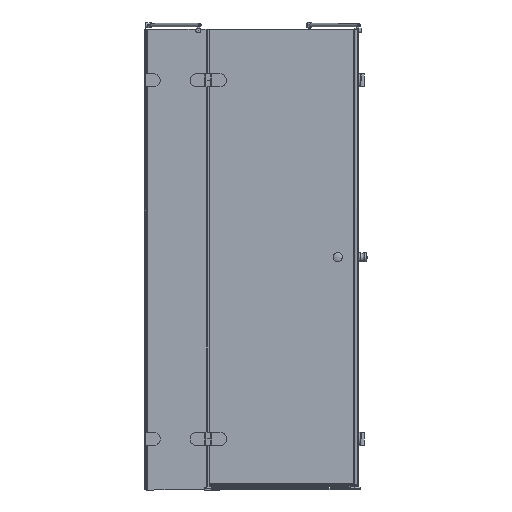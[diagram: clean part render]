
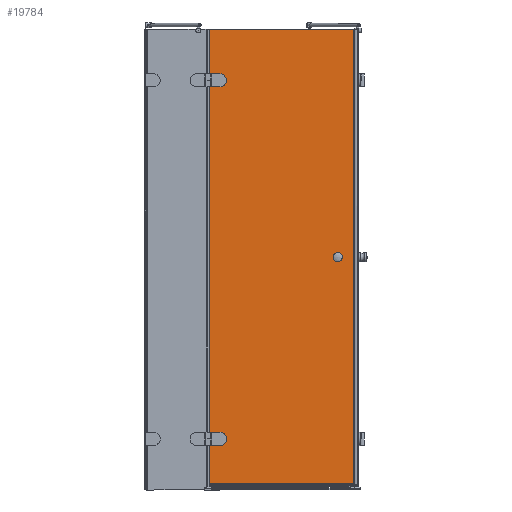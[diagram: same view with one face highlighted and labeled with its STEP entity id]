
A CAD part, front view. The second image highlights one B-rep face of the part: STEP entity #19784.
In plain terms, the highlighted planar face has unit normal (0, -1, 0).
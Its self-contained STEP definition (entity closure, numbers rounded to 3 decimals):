
#343=LINE($,#27741,#2332);
#346=LINE($,#27747,#2335);
#350=LINE($,#27757,#2339);
#393=LINE($,#27869,#2382);
#396=LINE($,#27875,#2385);
#400=LINE($,#27885,#2389);
#1843=LINE($,#32679,#3832);
#1890=LINE($,#32890,#3879);
#1897=LINE($,#32903,#3886);
#1937=LINE($,#32998,#3926);
#2332=VECTOR($,#22360,52.);
#2335=VECTOR($,#22365,23.);
#2339=VECTOR($,#22377,23.);
#2382=VECTOR($,#22484,52.);
#2385=VECTOR($,#22489,23.);
#2389=VECTOR($,#22501,23.);
#3832=VECTOR($,#26188,1875.4);
#3879=VECTOR($,#26337,1875.4);
#3886=VECTOR($,#26356,600.);
#3926=VECTOR($,#26476,600.);
#4521=FACE_BOUND($,#6724,.T.);
#4522=FACE_BOUND($,#6725,.T.);
#4523=FACE_BOUND($,#6726,.T.);
#6724=EDGE_LOOP($,(#16389,#16390,#16391,#16392));
#6725=EDGE_LOOP($,(#16393,#16394,#16395,#16396));
#6726=EDGE_LOOP($,(#16397,#16398,#16399,#16400));
#6944=CIRCLE($,#20165,26.);
#6956=CIRCLE($,#20202,26.);
#7666=VERTEX_POINT($,#27738);
#7667=VERTEX_POINT($,#27740);
#7669=VERTEX_POINT($,#27746);
#7671=VERTEX_POINT($,#27752);
#7707=VERTEX_POINT($,#27866);
#7708=VERTEX_POINT($,#27868);
#7710=VERTEX_POINT($,#27874);
#7712=VERTEX_POINT($,#27880);
#8897=VERTEX_POINT($,#32676);
#8898=VERTEX_POINT($,#32678);
#8962=VERTEX_POINT($,#32875);
#8963=VERTEX_POINT($,#32888);
#9429=EDGE_CURVE($,#7667,#7666,#343,.T.);
#9432=EDGE_CURVE($,#7669,#7667,#346,.T.);
#9435=EDGE_CURVE($,#7671,#7669,#6944,.T.);
#9438=EDGE_CURVE($,#7666,#7671,#350,.T.);
#9491=EDGE_CURVE($,#7708,#7707,#393,.T.);
#9494=EDGE_CURVE($,#7710,#7708,#396,.T.);
#9497=EDGE_CURVE($,#7712,#7710,#6956,.T.);
#9500=EDGE_CURVE($,#7707,#7712,#400,.T.);
#11393=EDGE_CURVE($,#8897,#8898,#1843,.T.);
#11475=EDGE_CURVE($,#8962,#8963,#1890,.T.);
#11482=EDGE_CURVE($,#8897,#8962,#1897,.T.);
#11530=EDGE_CURVE($,#8898,#8963,#1937,.T.);
#16389=ORIENTED_EDGE($,*,*,#9429,.T.);
#16390=ORIENTED_EDGE($,*,*,#9438,.T.);
#16391=ORIENTED_EDGE($,*,*,#9435,.T.);
#16392=ORIENTED_EDGE($,*,*,#9432,.T.);
#16393=ORIENTED_EDGE($,*,*,#9491,.T.);
#16394=ORIENTED_EDGE($,*,*,#9500,.T.);
#16395=ORIENTED_EDGE($,*,*,#9497,.T.);
#16396=ORIENTED_EDGE($,*,*,#9494,.T.);
#16397=ORIENTED_EDGE($,*,*,#11482,.T.);
#16398=ORIENTED_EDGE($,*,*,#11475,.T.);
#16399=ORIENTED_EDGE($,*,*,#11530,.F.);
#16400=ORIENTED_EDGE($,*,*,#11393,.F.);
#17696=PLANE($,#21422);
#19784=ADVANCED_FACE($,(#4521,#4522,#4523),#17696,.T.);
#20165=AXIS2_PLACEMENT_3D($,#27753,#22371,#22372);
#20202=AXIS2_PLACEMENT_3D($,#27881,#22495,#22496);
#21422=AXIS2_PLACEMENT_3D($,#32997,#26474,#26475);
#22360=DIRECTION($,(0.,0.,1.));
#22365=DIRECTION($,(-1.,0.,0.));
#22371=DIRECTION('center_axis',(0.,1.,0.));
#22372=DIRECTION('ref_axis',(0.,0.,
1.));
#22377=DIRECTION($,(1.,0.,0.));
#22484=DIRECTION($,(0.,0.,1.));
#22489=DIRECTION($,(-1.,0.,0.));
#22495=DIRECTION('center_axis',(0.,1.,0.));
#22496=DIRECTION('ref_axis',(0.,0.,
1.));
#22501=DIRECTION($,(1.,0.,0.));
#26188=DIRECTION($,(0.,0.,1.));
#26337=DIRECTION($,(0.,0.,1.));
#26356=DIRECTION($,(1.,0.,0.));
#26474=DIRECTION('center_axis',(0.,-1.,0.));
#26475=DIRECTION('ref_axis',(1.,0.,0.));
#26476=DIRECTION($,(1.,0.,0.));
#27738=CARTESIAN_POINT('',(737.733,-134.044,-278.056));
#27740=CARTESIAN_POINT('',(737.733,-134.044,-330.056));
#27741=CARTESIAN_POINT($,(737.733,-134.044,-412.056));
#27746=CARTESIAN_POINT('',(760.733,-134.044,-330.056));
#27747=CARTESIAN_POINT($,(738.733,-134.044,-330.056));
#27752=CARTESIAN_POINT('',(760.733,-134.044,-278.056));
#27753=CARTESIAN_POINT('Origin',(760.733,-134.044,-304.056));
#27757=CARTESIAN_POINT($,(727.233,-134.044,-278.056));
#27866=CARTESIAN_POINT('',(737.733,-134.044,1201.944));
#27868=CARTESIAN_POINT('',(737.733,-134.044,1149.944));
#27869=CARTESIAN_POINT($,(737.733,-134.044,327.944));
#27874=CARTESIAN_POINT('',(760.733,-134.044,1149.944));
#27875=CARTESIAN_POINT($,(738.733,-134.044,1149.944));
#27880=CARTESIAN_POINT('',(760.733,-134.044,1201.944));
#27881=CARTESIAN_POINT('Origin',(760.733,-134.044,1175.944));
#27885=CARTESIAN_POINT($,(727.233,-134.044,1201.944));
#32676=CARTESIAN_POINT('',(716.733,-134.044,-489.456));
#32678=CARTESIAN_POINT('',(716.733,-134.044,1385.944));
#32679=CARTESIAN_POINT($,(716.733,-134.044,-494.056));
#32875=CARTESIAN_POINT('',(1316.733,-134.044,-489.456));
#32888=CARTESIAN_POINT('',(1316.733,-134.044,1385.944));
#32890=CARTESIAN_POINT($,(1316.733,-134.044,-494.056));
#32903=CARTESIAN_POINT($,(716.733,-134.044,-489.456));
#32997=CARTESIAN_POINT('Origin',(716.733,-134.044,-494.056));
#32998=CARTESIAN_POINT($,(716.733,-134.044,1385.944));
